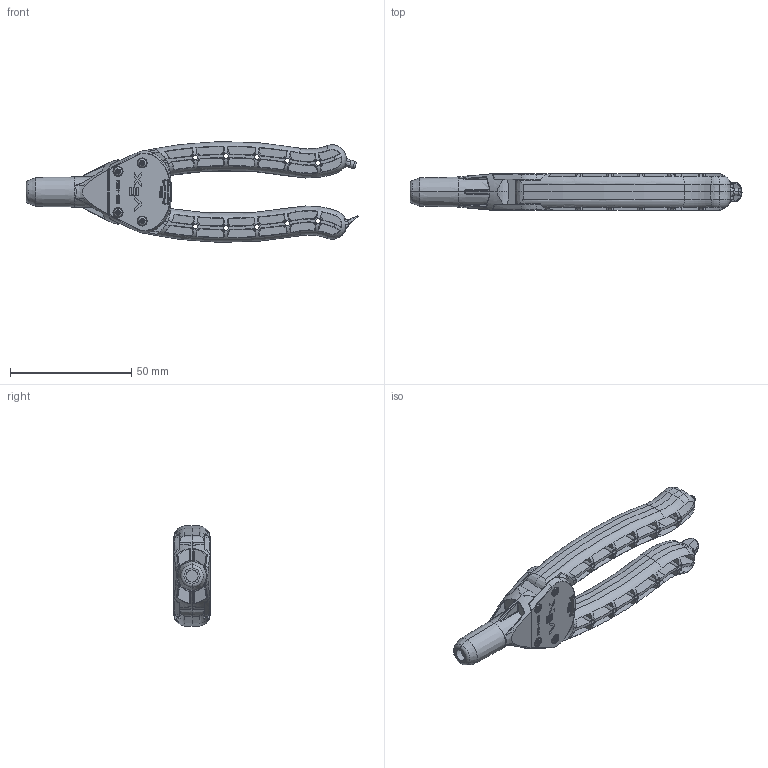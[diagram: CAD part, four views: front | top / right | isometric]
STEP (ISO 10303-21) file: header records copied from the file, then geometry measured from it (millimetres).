
FILE_DESCRIPTION (( 'STEP AP214' ), '1' );
FILE_NAME ('for public release.STEP', '2021-02-18T21:38:30', ( '' ), ( '' ), 'SwSTEP 2.0', 'SolidWorks 2019', '' );
FILE_SCHEMA (( 'AUTOMOTIVE_DESIGN' ));
Length unit declared in the file: millimetre
Products named in the file (1): for public release
Bounding box: 137.14 x 15 x 41.62 mm (x, y, z)
Volume: 26861.1 mm3; surface area: 22617.6 mm2
Topology: 1 solids, 1 shells, 1569 faces, 4315 edges, 2758 vertices
Faces by surface type: plane 510, bspline 477, cone 312, cylinder 128, torus 118, sphere 24
Entity records: 75917 total; most frequent: CARTESIAN_POINT 23494, ORIENTED_EDGE 8590, DIRECTION 5885, EDGE_CURVE 4295, VERTEX_POINT 2758, AXIS2_PLACEMENT_3D 2291, EDGE_LOOP 1627, B_SPLINE_CURVE_WITH_KNOTS 1607
